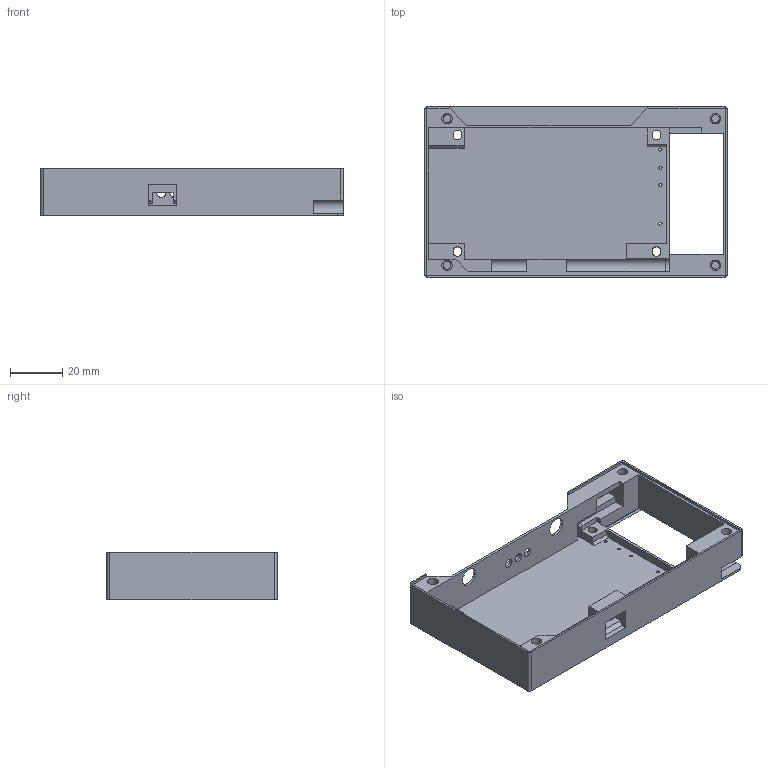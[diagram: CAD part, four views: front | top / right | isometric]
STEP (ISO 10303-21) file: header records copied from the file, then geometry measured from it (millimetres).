
FILE_DESCRIPTION(('STEP AP203'), '1');
FILE_NAME('Bottom', '', ('UNSPECIFIED'), ('UNSPECIFIED'), 'ASCON STEP Converter 1.6', 'ASCON Math Kernel', '');
FILE_SCHEMA(('CONFIG_CONTROL_DESIGN'));
Length unit declared in the file: millimetre
Bounding box: 115.5 x 65 x 18.2 mm (x, y, z)
Volume: 23806.6 mm3; surface area: 27144.5 mm2
Topology: 1 solids, 1 shells, 149 faces, 414 edges, 271 vertices
Faces by surface type: plane 98, cylinder 47, torus 4
Full cylindrical faces by diameter (mm): 1.2 x4, 3 x4, 3.4 x3, 4 x4, 5.4 x1, 7 x2
Entity records: 5969 total; most frequent: CARTESIAN_POINT 841, DIRECTION 795, ORIENTED_EDGE 792, EDGE_CURVE 396, LINE 281, VECTOR 281, VERTEX_POINT 271, AXIS2_PLACEMENT_3D 257
